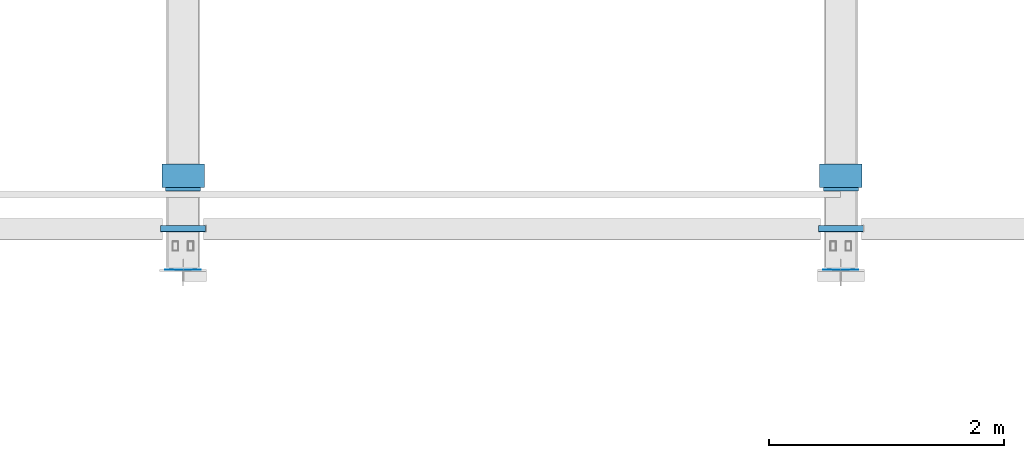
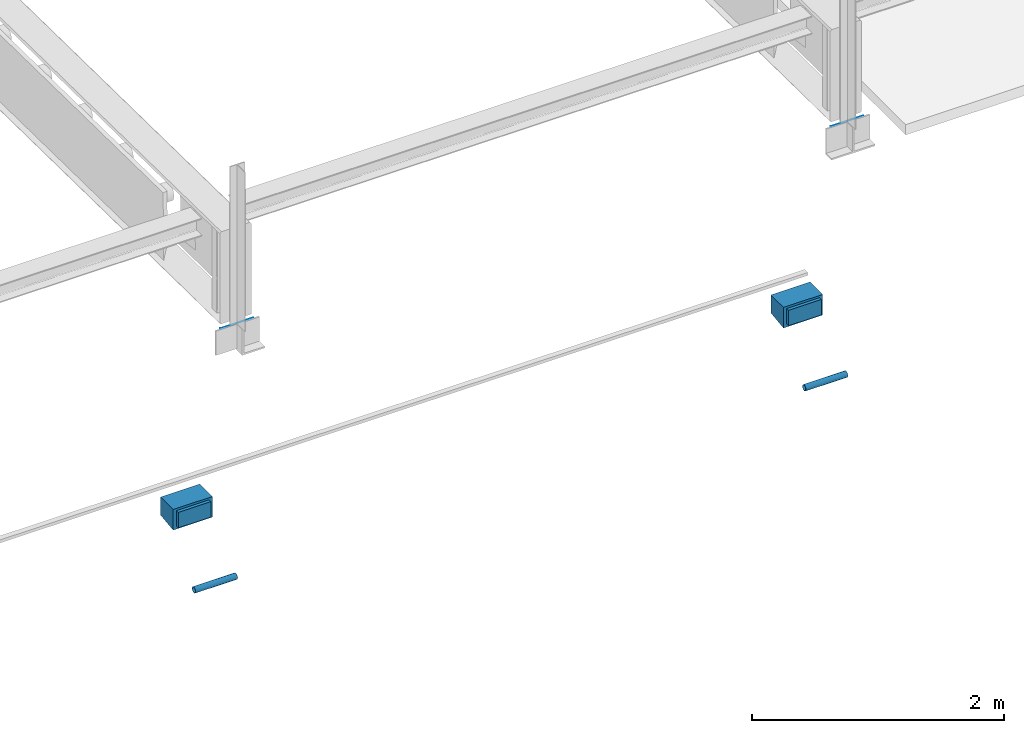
# One storey, part 14 of 186: 8 beams.
"""IFC4X3_ADD2 building model written with IfcOpenShell, lengths in millimetres."""

from ifc_helpers import new_model, entity, si_unit, direction, frame, frame_2d, origin_with_axes, place, context, subcontext, project, spatial, rectangle, hollow_circle, extrude, material, element, save


model = new_model("IFC4X3_ADD2")

# Units and contexts
model_context = context("Model", 3, precision=1e-05, world=origin_with_axes(), true_north=direction((0.0, 1.0)))
body_context = subcontext(model_context, "Body", "Model", "MODEL_VIEW")
ifc_project = project(units=[si_unit("LENGTHUNIT", "METRE", prefix="MILLI"), si_unit("AREAUNIT", "SQUARE_METRE"), si_unit("VOLUMEUNIT", "CUBIC_METRE"), si_unit("PLANEANGLEUNIT", "RADIAN"), si_unit("TIMEUNIT", "SECOND"), si_unit("MASSUNIT", "GRAM")], contexts=[model_context])

# Site, building, storey
site_placement = place(None, origin_with_axes())
site = spatial("IfcSite", under=ifc_project, at=site_placement, Name="Site", CompositionType="ELEMENT")
building_placement = place(site_placement, origin_with_axes())
building = spatial("IfcBuilding", under=site, at=building_placement, Name="IFC Building Story")
storey_placement = place(building_placement, frame((0.0, 0.0, 4370.0), z_axis=(0.0, 0.0, 1.0), x_axis=(1.0, 0.0, 0.0)))
storey = spatial("IfcBuildingStorey", under=building, at=storey_placement, Name="ETAGE 10 (1)", Elevation=4370.0)

# Beams
ifc_material_1 = material(Name="STEEL/Accessory_C60/75")
for number, where, z_axis, x_axis, name in (
    (1, (22336.1892084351, 799.999963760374, 1810.0), (-1.0, 0.0, 0.0), (0.0, 0.0, 1.0), "BEK1"),
    (2, (27936.1886362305, 799.999963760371, 1810.0), (-1.0, 0.0, 0.0), (0.0, 0.0, 1.0), "BEK1"),
):
    element("IfcBeam", number, at=place(storey_placement, frame(where, z_axis=z_axis, x_axis=x_axis)), inside=storey, material=ifc_material_1, Name=name, ObjectType="CORBEL200-200-175", context=body_context, shape_type="SweptSolid", body=[
        extrude(entity("IfcTrapeziumProfileDef", "AREA", None, entity("IfcAxis2Placement2D", entity("IfcCartesianPoint", [0.0, 5.95523630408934e-12]), entity("IfcDirection", [1.0, 0.0])), 200.0, 175.0, 200.0, 25.0), origin_with_axes(), (0.0, 0.0, 1.0), 360.0),
    ])
ifc_material_2 = material(Name="STEEL/Accessory_invisible 261")
for number, where, z_axis, x_axis, name in (
    (3, (22305.691461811, 0.50106811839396, 4079.50041961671), (-1.0, 0.0, 0.0), (0.0, 1.0, 0.0), "52"),
    (4, (27905.6908896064, 0.501068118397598, 4079.50041961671), (-1.0, 0.0, 0.0), (0.0, 1.0, 0.0), "52"),
):
    element("IfcBeam", number, at=place(storey_placement, frame(where, z_axis=z_axis, x_axis=x_axis)), inside=storey, material=ifc_material_2, Name=name, ObjectType="1*1 3", context=body_context, shape_type="SweptSolid", body=[
        extrude(rectangle(XDim=0.9999999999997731, YDim=0.9999999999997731, at=frame_2d((0.0, 5.95523630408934e-12), x_axis=(1.0, 0.0))), origin_with_axes(), (0.0, 0.0, 1.0), 300.0),
    ])
ifc_material_3 = material(Name="STEEL/Accessory_PVC")
beam_1_placement = place(storey_placement, frame((21964.1892083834, 349.999963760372, 1346.422), z_axis=(1.0, 0.0, 0.0), x_axis=(0.0, 0.0, -1.0)))
element("IfcBeam", 5, at=beam_1_placement, inside=storey, material=ifc_material_3, Name="PS13", ObjectType="O56*3", context=body_context, shape_type="SweptSolid", body=[
    extrude(hollow_circle(Radius=28.0, WallThickness=3.0, at=frame_2d((0.0, 5.95523630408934e-12), x_axis=(1.0, 0.0))), origin_with_axes(), (0.0, 0.0, 1.0), 384.0),
])
beam_2_placement = place(storey_placement, frame((27564.1886361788, 349.999963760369, 1346.422), z_axis=(1.0, 0.0, 0.0), x_axis=(0.0, 0.0, -1.0)))
element("IfcBeam", 6, at=beam_2_placement, inside=storey, material=ifc_material_3, Name="PS13", ObjectType="O56*3", context=body_context, shape_type="SweptSolid", body=[
    extrude(hollow_circle(Radius=28.0, WallThickness=3.0, at=frame_2d((0.0, 5.95523630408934e-12), x_axis=(1.0, 0.0))), origin_with_axes(), (0.0, 0.0, 1.0), 383.9999999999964),
])
ifc_material_4 = material(Name="STEEL/Accessory_EPS")
for number, where, z_axis, x_axis, name in (
    (7, (22306.1892084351, 684.999963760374, 1815.00000000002), (-1.0, 0.0, 0.0), (0.0, 0.0, -1.0), "POL4"),
    (8, (27906.1886362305, 684.999963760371, 1815.00000000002), (-1.0, 0.0, 0.0), (0.0, 0.0, -1.0), "POL4"),
):
    element("IfcBeam", number, at=place(storey_placement, frame(where, z_axis=z_axis, x_axis=x_axis)), inside=storey, material=ifc_material_4, Name=name, ObjectType="30*300 4", context=body_context, shape_type="SweptSolid", body=[
        extrude(rectangle(XDim=149.999999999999, YDim=29.9999999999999, at=frame_2d((0.0, 5.95523630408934e-12), x_axis=(1.0, 0.0))), origin_with_axes(), (0.0, 0.0, 1.0), 300.0),
    ])

save(model, "model.ifc")
